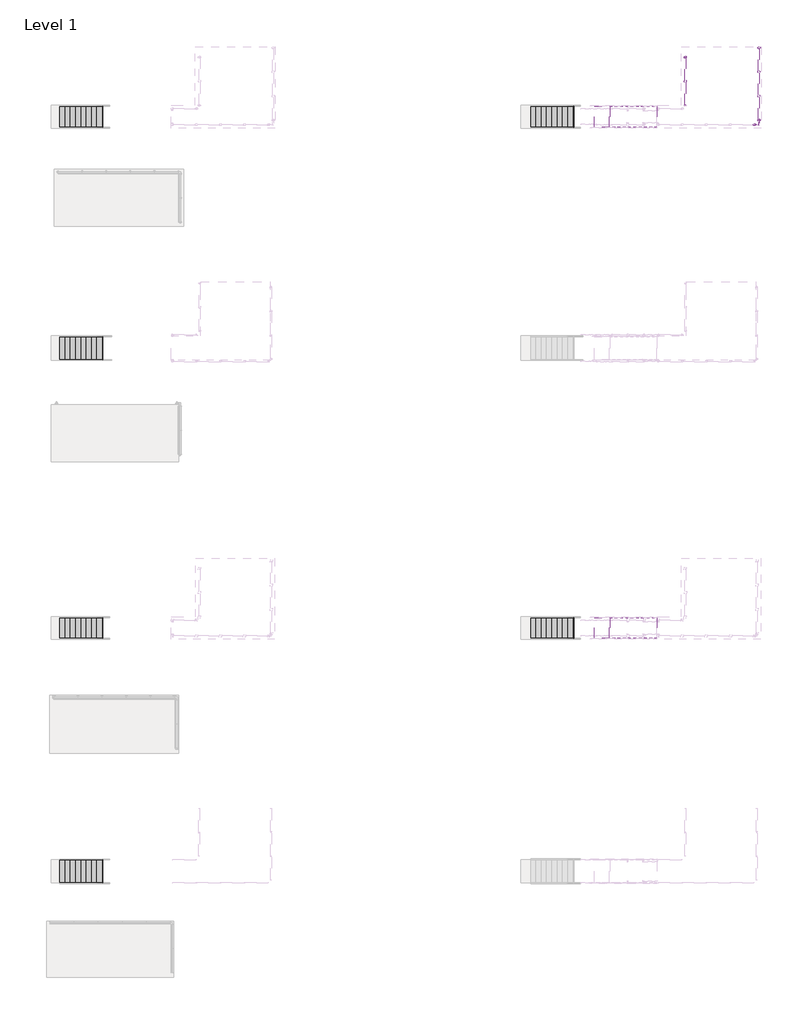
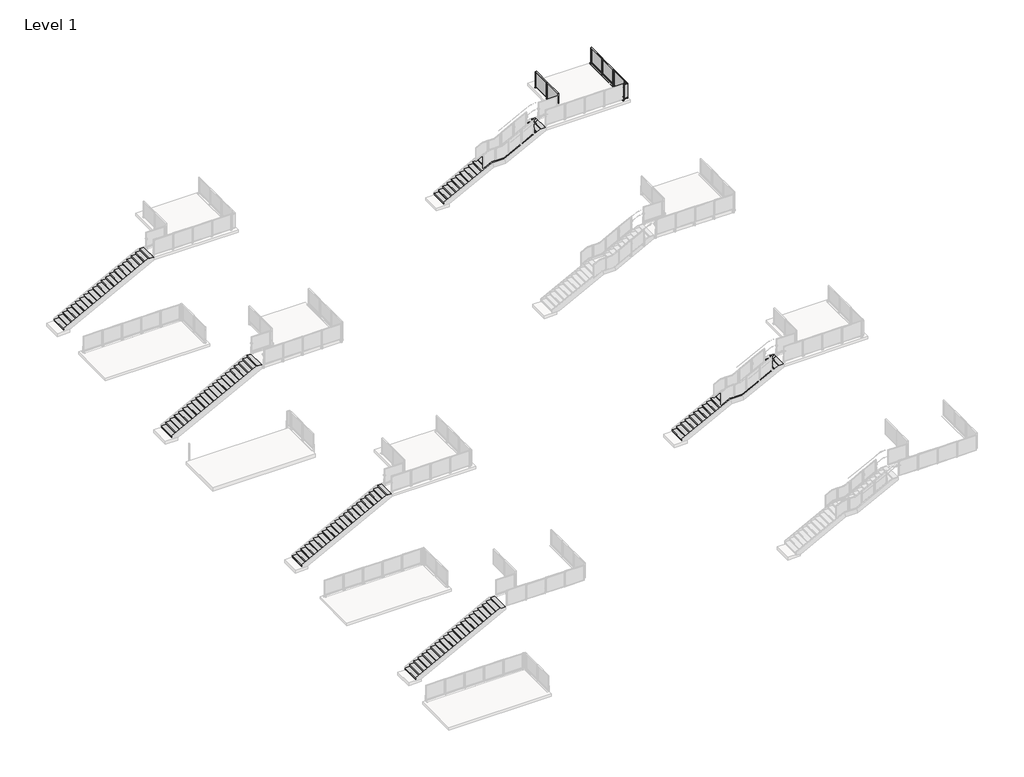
# One storey, part 36 of 37: 8 stair flights, 4 proxies, 3 railings, 2 slabs.
"""IFC4 building model written with IfcOpenShell, lengths in millimetres."""

from ifc_helpers import new_model, si_unit, point, frame, frame_2d, origin, place, context, project, spatial, polyline, circle_curve, trimmed, segment, composite_curve, outline, extrude, faceted_brep, transform, mapped, element, save
from ifc_brep_helpers import plane_surface, cylinder_surface, advanced_brep
from components import baluster_end_post_viva_frame_top_mount_933f940f, baluster_end_post_viva_frame_top_mount_dbc33080, baluster_end_post_viva_frame_top_mount_933cdb12, baluster_corner_panel_viva_frame_inside_standard_882b99be, non_monolithic_landing_f369c329, non_monolithic_landing_64b571ac, stair_flight_34399b1a, stair_flight_03183e76, stair_flight_abbb2ed0, stair_flight_b4acfca7, stair_flight_f9da9db6, stair_flight_c7a47ad9, stair_flight_6cd5c80f, stair_flight_bc71ca27

model = new_model("IFC4")

# Units and contexts
model_context = context("Model", 3, world=origin())
ifc_project = project(units=[si_unit("LENGTHUNIT", "METRE", prefix="MILLI")], contexts=[model_context])

# Site, building, storey
site = spatial("IfcSite", under=ifc_project)
building = spatial("IfcBuilding", under=site)
storey = spatial("IfcBuildingStorey", under=building, Name="Level 1", Elevation=0.0)

# Proxies
placement = place(None, origin())
baluster_end_post_viva_frame_top_mount_shape = baluster_end_post_viva_frame_top_mount_933f940f(model_context)
element("IfcBuildingElementProxy", 1, Name="Baluster-End-Post-VIVA-FRAME-Top Mount : CORED INTO CONCRETE_TOP MOUNT FOLD_STRAIGHT", ObjectType="Baluster-End-Post-VIVA-FRAME-Top Mount : CORED INTO CONCRETE_TOP MOUNT FOLD_STRAIGHT", at=placement, inside=storey, context=model_context, shape_type="MappedRepresentation", body=[
    mapped(baluster_end_post_viva_frame_top_mount_shape, transform((-2192.9377244, 8746.3986722, 3047.492), x_axis=(0.0, 1.0, 0.0), y_axis=(-1.0, 0.0, 0.0), z_axis=(0.0, 0.0, 1.0))),
])
baluster_end_post_viva_frame_top_mount_2_shape = baluster_end_post_viva_frame_top_mount_dbc33080(model_context)
element("IfcBuildingElementProxy", 2, Name="Baluster-End-Post-VIVA-FRAME-Top Mount : CORED INTO CONCRETE_TOP MOUNT FOLD_STRAIGHT", ObjectType="Baluster-End-Post-VIVA-FRAME-Top Mount : CORED INTO CONCRETE_TOP MOUNT FOLD_STRAIGHT", at=placement, inside=storey, context=model_context, shape_type="MappedRepresentation", body=[
    mapped(baluster_end_post_viva_frame_top_mount_2_shape, transform((-2333.6813244, 8605.5937722, 3047.492), x_axis=(1.0, 0.0, 0.0), y_axis=(0.0, 1.0, 0.0), z_axis=(0.0, 0.0, 1.0))),
])
baluster_end_post_viva_frame_top_mount_3_shape = baluster_end_post_viva_frame_top_mount_933cdb12(model_context)
element("IfcBuildingElementProxy", 3, Name="Baluster-End-Post-VIVA-FRAME-Top Mount : CORED INTO CONCRETE_TOP MOUNT FOLD_STRAIGHT", ObjectType="Baluster-End-Post-VIVA-FRAME-Top Mount : CORED INTO CONCRETE_TOP MOUNT FOLD_STRAIGHT", at=placement, inside=storey, context=model_context, shape_type="MappedRepresentation", body=[
    mapped(baluster_end_post_viva_frame_top_mount_3_shape, transform((-5882.5754694, 12061.3663722, 3047.492), x_axis=(0.0, -1.0, 0.0), y_axis=(1.0, 0.0, 0.0), z_axis=(0.0, 0.0, 1.0))),
])
element("IfcBuildingElementProxy", 4, Name="Baluster-End-Post-VIVA-FRAME-Top Mount : CORED INTO CONCRETE_TOP MOUNT FOLD_STRAIGHT", ObjectType="Baluster-End-Post-VIVA-FRAME-Top Mount : CORED INTO CONCRETE_TOP MOUNT FOLD_STRAIGHT", at=placement, inside=storey, context=model_context, shape_type="MappedRepresentation", body=[
    mapped(baluster_end_post_viva_frame_top_mount_2_shape, transform((-2192.9377244, 12556.3986722, 3047.492), x_axis=(0.0, 1.0, 0.0), y_axis=(-1.0, 0.0, 0.0), z_axis=(0.0, 0.0, 1.0))),
])

# Railings
baluster_corner_panel_viva_frame_inside_standard_shape = baluster_corner_panel_viva_frame_inside_standard_882b99be(model_context)
element("IfcRailing", 5, ObjectType="Baluster-Corner-Panel-VIVA-FRAME : Inside_Standard", at=placement, inside=storey, context=model_context, shape_type="MappedRepresentation", body=[
    mapped(baluster_corner_panel_viva_frame_inside_standard_shape, transform((-2067.0299244, 8479.6859722, 3022.346), x_axis=(0.0, 1.0, 0.0), y_axis=(-1.0, 0.0, 0.0), z_axis=(0.0, 0.0, 1.0))),
])
element("IfcRailing", 6, ObjectType="Metal-Panel-VIVA-FRAME-Top_Core-Straight", at=placement, inside=storey, context=model_context, shape_type="SolidModel", body=[
    extrude(outline(composite_curve([segment(trimmed(circle_curve(frame_2d((3047.746, -5882.5754694)), 0.254), [point((3047.746, -5882.3214694))], [point((3047.746, -5882.8294694))], False, "CARTESIAN"), True, "CONTINUOUS"), segment(trimmed(circle_curve(frame_2d((3047.746, -5882.5754694)), 0.254), [point((3047.746, -5882.8294694))], [point((3047.746, -5882.3214694))], False, "CARTESIAN"), True, "CONTINUOUS")], self_intersect=False)), frame((0.0, 9521.3663722, 0.0), z_axis=(0.0, 1.0, 0.0), x_axis=(0.0, 0.0, 1.0)), (0.0, 0.0, 1.0), 2540.0),
    extrude(outline(composite_curve([segment(trimmed(circle_curve(frame_2d((3047.746, -5882.5754694)), 0.254), [point((3047.746, -5882.3214694))], [point((3047.746, -5882.8294694))], False, "CARTESIAN"), True, "CONTINUOUS"), segment(trimmed(circle_curve(frame_2d((3047.746, -5882.5754694)), 0.254), [point((3047.746, -5882.8294694))], [point((3047.746, -5882.3214694))], False, "CARTESIAN"), True, "CONTINUOUS")], self_intersect=False)), frame((0.0, 9521.3663722, 0.0), z_axis=(0.0, 1.0, 0.0), x_axis=(0.0, 0.0, 1.0)), (0.0, 0.0, 1.0), 2540.0),
    extrude(outline(polyline([(-6005.3858694, 10832.1928291), (-6005.3858694, 12020.5399153), (-6002.3858694, 12020.5399153), (-6002.3858694, 10832.1928291), (-6005.3858694, 10832.1928291)])), frame((0.0, 0.0, 3124.1959569), z_axis=(0.0, 0.0, 1.0), x_axis=(1.0, 0.0, 0.0)), (0.0, 0.0, 1.0), 990.5826861),
    faceted_brep([(-6005.3858694, 10806.7928291, 4140.1786431), (-6005.3858694, 12045.9399153, 4140.1786431), (-6005.3858694, 12045.9399153, 3098.7959569), (-6005.3858694, 10806.7928291, 3098.7959569), (-6005.3858694, 10832.1928291, 4114.7786431), (-6005.3858694, 10832.1928291, 3124.1959569), (-6005.3858694, 12020.5399153, 3124.1959569), (-6005.3858694, 12020.5399153, 4114.7786431), (-6002.3858694, 10832.1928291, 3124.1959569), (-6002.3858694, 12020.5399153, 3124.1959569), (-6002.3858694, 12020.5399153, 4114.7786431), (-6002.3858694, 10832.1928291, 4114.7786431), (-5951.5858694, 10812.7872291, 3104.7903569), (-5951.5858694, 12039.9455153, 3104.7903569), (-5982.3960694, 12039.9455153, 3104.7903569), (-5982.3960694, 10812.7872291, 3104.7903569), (-5951.5858694, 12039.9455153, 4134.1842431), (-5982.3960694, 12039.9455153, 4134.1842431), (-5982.3960694, 10812.7872291, 4134.1842431), (-5951.5858694, 10812.7872291, 4134.1842431), (-5951.5858694, 12045.9399153, 3098.7959569), (-5951.5858694, 12045.9399153, 4140.1786431), (-5951.5858694, 10806.7928291, 4140.1786431), (-5951.5858694, 10806.7928291, 3098.7959569), (-6002.3858694, 10857.5928291, 4089.3786431), (-6002.3858694, 10857.5928291, 3149.5959569), (-6002.3858694, 11995.1399153, 3149.5959569), (-6002.3858694, 11995.1399153, 4089.3786431), (-5982.3960694, 11995.1399153, 3149.5959569), (-5982.3960694, 10857.5928291, 3149.5959569), (-5982.3960694, 10857.5928291, 4089.3786431), (-5982.3960694, 11995.1399153, 4089.3786431)], [[[0, 1, 2, 3], [4, 5, 6, 7]], [[5, 8, 9, 6]], [[6, 9, 10, 7]], [[7, 10, 11, 4]], [[4, 11, 8, 5]], [[12, 13, 14, 15]], [[13, 16, 17, 14]], [[15, 18, 19, 12]], [[20, 21, 22, 23], [12, 19, 16, 13]], [[23, 22, 0, 3]], [[23, 3, 2, 20]], [[2, 1, 21, 20]], [[22, 21, 1, 0]], [[11, 10, 9, 8], [24, 25, 26, 27]], [[14, 17, 18, 15], [28, 29, 30, 31]], [[18, 17, 16, 19]], [[27, 31, 30, 24]], [[26, 28, 31, 27]], [[25, 29, 28, 26]], [[24, 30, 29, 25]]]),
    extrude(outline(composite_curve([segment(trimmed(circle_curve(frame_2d((-5978.4858694, 10791.3663722)), 65.8876), [point((-6044.3734694, 10791.3663722))], [point((-5912.5982694, 10791.3663722))], False, "CARTESIAN"), True, "CONTINUOUS"), segment(trimmed(circle_curve(frame_2d((-5978.4858694, 10791.3663722)), 65.8876), [point((-5912.5982694, 10791.3663722))], [point((-6044.3734694, 10791.3663722))], False, "CARTESIAN"), True, "CONTINUOUS")], self_intersect=False)), frame((0.0, 0.0, 3048.0), z_axis=(0.0, 0.0, 1.0), x_axis=(1.0, 0.0, 0.0)), (0.0, 0.0, 1.0), 2.9821299),
    advanced_brep(
    [(-5978.4858694, 10765.1789722, 3178.1496), (-5978.4858694, 10765.1789722, 3187.7), (-5978.4858694, 10765.1789722, 3197.2504), (-5978.4858694, 10769.9541722, 3178.1496), (-5978.4858694, 10769.9541722, 3197.2504), (-5978.4858694, 10769.9541722, 3182.9248), (-5978.4858694, 10769.9541722, 3192.4752), (-5978.4858694, 10812.7785722, 3182.9248), (-5978.4858694, 10812.7785722, 3192.4752), (-5978.4858694, 10812.7785722, 3178.1496), (-5978.4858694, 10812.7785722, 3197.2504), (-5978.4858694, 10817.5537722, 3178.1496), (-5978.4858694, 10817.5537722, 3197.2504), (-5978.4858694, 10817.5537722, 3187.7)],
    [
        (0, 1),
        (1, 2),
        (2, 0, circle_curve(frame((-5978.4858694, 10765.1789722, 3187.7), z_axis=(0.0, -1.0, 0.0), x_axis=(0.0, 0.0, 1.0)), 9.5504)),
        (0, 2, circle_curve(frame((-5978.4858694, 10765.1789722, 3187.7), z_axis=(0.0, -1.0, 0.0), x_axis=(0.0, 0.0, 1.0)), 9.5504)),
        (3, 0),
        (2, 4),
        (4, 3, circle_curve(frame((-5978.4858694, 10769.9541722, 3187.7), z_axis=(0.0, -1.0, 0.0), x_axis=(0.0, 0.0, 1.0)), 9.5504)),
        (3, 4, circle_curve(frame((-5978.4858694, 10769.9541722, 3187.7), z_axis=(0.0, -1.0, 0.0), x_axis=(0.0, 0.0, 1.0)), 9.5504)),
        (5, 3),
        (4, 6),
        (6, 5, circle_curve(frame((-5978.4858694, 10769.9541722, 3187.7), z_axis=(0.0, -1.0, 0.0), x_axis=(0.0, 0.0, 1.0)), 4.7752)),
        (5, 6, circle_curve(frame((-5978.4858694, 10769.9541722, 3187.7), z_axis=(0.0, -1.0, 0.0), x_axis=(0.0, 0.0, 1.0)), 4.7752)),
        (7, 5),
        (6, 8),
        (8, 7, circle_curve(frame((-5978.4858694, 10812.7785722, 3187.7), z_axis=(0.0, -1.0, 0.0), x_axis=(0.0, 0.0, 1.0)), 4.7752)),
        (7, 8, circle_curve(frame((-5978.4858694, 10812.7785722, 3187.7), z_axis=(0.0, -1.0, 0.0), x_axis=(0.0, 0.0, 1.0)), 4.7752)),
        (9, 7),
        (8, 10),
        (10, 9, circle_curve(frame((-5978.4858694, 10812.7785722, 3187.7), z_axis=(0.0, -1.0, 0.0), x_axis=(0.0, 0.0, 1.0)), 9.5504)),
        (9, 10, circle_curve(frame((-5978.4858694, 10812.7785722, 3187.7), z_axis=(0.0, -1.0, 0.0), x_axis=(0.0, 0.0, 1.0)), 9.5504)),
        (11, 9),
        (10, 12),
        (12, 11, circle_curve(frame((-5978.4858694, 10817.5537722, 3187.7), z_axis=(0.0, -1.0, 0.0), x_axis=(0.0, 0.0, 1.0)), 9.5504)),
        (11, 12, circle_curve(frame((-5978.4858694, 10817.5537722, 3187.7), z_axis=(0.0, -1.0, 0.0), x_axis=(0.0, 0.0, 1.0)), 9.5504)),
        (13, 11),
        (12, 13),
    ],
    [
        plane_surface(frame((-5978.4858694, 10765.1789722, 3187.7), z_axis=(0.0, -1.0, 0.0), x_axis=(0.0, 0.0, 1.0))),
        cylinder_surface(frame((-5978.4858694, 7373.5986151, 3187.7), z_axis=(0.0, 1.0, 0.0), x_axis=(0.0, 0.0, 1.0)), 9.5504),
        plane_surface(frame((-5978.4858694, 10769.9541722, 3187.7), z_axis=(0.0, 1.0, 0.0), x_axis=(0.0, 0.0, 1.0))),
        cylinder_surface(frame((-5978.4858694, 7373.5986151, 3187.7), z_axis=(0.0, 1.0, 0.0), x_axis=(0.0, 0.0, 1.0)), 4.7752),
        plane_surface(frame((-5978.4858694, 10812.7785722, 3187.7), z_axis=(0.0, -1.0, 0.0), x_axis=(0.0, 0.0, 1.0))),
        plane_surface(frame((-5978.4858694, 10817.5537722, 3187.7), z_axis=(0.0, 1.0, 0.0), x_axis=(0.0, 0.0, 1.0))),
    ],
    [
        (0, [[1, 2, 3]]),
        (0, [[-2, -1, 4]]),
        (1, [[5, -3, 6, 7]]),
        (1, [[-6, -4, -5, 8]]),
        (2, [[9, -7, 10, 11]]),
        (2, [[-10, -8, -9, 12]]),
        (3, [[13, -11, 14, 15]]),
        (3, [[-14, -12, -13, 16]]),
        (4, [[17, -15, 18, 19]]),
        (4, [[-18, -16, -17, 20]]),
        (1, [[21, -19, 22, 23]]),
        (1, [[-22, -20, -21, 24]]),
        (5, [[25, -23, 26]]),
        (5, [[-26, -24, -25]]),
    ],
),
    advanced_brep(
    [(-5978.4858694, 10765.1789722, 3419.4496), (-5978.4858694, 10765.1789722, 3429.0), (-5978.4858694, 10765.1789722, 3438.5504), (-5978.4858694, 10769.9541722, 3419.4496), (-5978.4858694, 10769.9541722, 3438.5504), (-5978.4858694, 10769.9541722, 3424.2248), (-5978.4858694, 10769.9541722, 3433.7752), (-5978.4858694, 10812.7785722, 3424.2248), (-5978.4858694, 10812.7785722, 3433.7752), (-5978.4858694, 10812.7785722, 3419.4496), (-5978.4858694, 10812.7785722, 3438.5504), (-5978.4858694, 10817.5537722, 3419.4496), (-5978.4858694, 10817.5537722, 3438.5504), (-5978.4858694, 10817.5537722, 3429.0)],
    [
        (0, 1),
        (1, 2),
        (2, 0, circle_curve(frame((-5978.4858694, 10765.1789722, 3429.0), z_axis=(0.0, -1.0, 0.0), x_axis=(0.0, 0.0, 1.0)), 9.5504)),
        (0, 2, circle_curve(frame((-5978.4858694, 10765.1789722, 3429.0), z_axis=(0.0, -1.0, 0.0), x_axis=(0.0, 0.0, 1.0)), 9.5504)),
        (3, 0),
        (2, 4),
        (4, 3, circle_curve(frame((-5978.4858694, 10769.9541722, 3429.0), z_axis=(0.0, -1.0, 0.0), x_axis=(0.0, 0.0, 1.0)), 9.5504)),
        (3, 4, circle_curve(frame((-5978.4858694, 10769.9541722, 3429.0), z_axis=(0.0, -1.0, 0.0), x_axis=(0.0, 0.0, 1.0)), 9.5504)),
        (5, 3),
        (4, 6),
        (6, 5, circle_curve(frame((-5978.4858694, 10769.9541722, 3429.0), z_axis=(0.0, -1.0, 0.0), x_axis=(0.0, 0.0, 1.0)), 4.7752)),
        (5, 6, circle_curve(frame((-5978.4858694, 10769.9541722, 3429.0), z_axis=(0.0, -1.0, 0.0), x_axis=(0.0, 0.0, 1.0)), 4.7752)),
        (7, 5),
        (6, 8),
        (8, 7, circle_curve(frame((-5978.4858694, 10812.7785722, 3429.0), z_axis=(0.0, -1.0, 0.0), x_axis=(0.0, 0.0, 1.0)), 4.7752)),
        (7, 8, circle_curve(frame((-5978.4858694, 10812.7785722, 3429.0), z_axis=(0.0, -1.0, 0.0), x_axis=(0.0, 0.0, 1.0)), 4.7752)),
        (9, 7),
        (8, 10),
        (10, 9, circle_curve(frame((-5978.4858694, 10812.7785722, 3429.0), z_axis=(0.0, -1.0, 0.0), x_axis=(0.0, 0.0, 1.0)), 9.5504)),
        (9, 10, circle_curve(frame((-5978.4858694, 10812.7785722, 3429.0), z_axis=(0.0, -1.0, 0.0), x_axis=(0.0, 0.0, 1.0)), 9.5504)),
        (11, 9),
        (10, 12),
        (12, 11, circle_curve(frame((-5978.4858694, 10817.5537722, 3429.0), z_axis=(0.0, -1.0, 0.0), x_axis=(0.0, 0.0, 1.0)), 9.5504)),
        (11, 12, circle_curve(frame((-5978.4858694, 10817.5537722, 3429.0), z_axis=(0.0, -1.0, 0.0), x_axis=(0.0, 0.0, 1.0)), 9.5504)),
        (13, 11),
        (12, 13),
    ],
    [
        plane_surface(frame((-5978.4858694, 10765.1789722, 3429.0), z_axis=(0.0, -1.0, 0.0), x_axis=(0.0, 0.0, 1.0))),
        cylinder_surface(frame((-5978.4858694, 7373.5986151, 3429.0), z_axis=(0.0, 1.0, 0.0), x_axis=(0.0, 0.0, 1.0)), 9.5504),
        plane_surface(frame((-5978.4858694, 10769.9541722, 3429.0), z_axis=(0.0, 1.0, 0.0), x_axis=(0.0, 0.0, 1.0))),
        cylinder_surface(frame((-5978.4858694, 7373.5986151, 3429.0), z_axis=(0.0, 1.0, 0.0), x_axis=(0.0, 0.0, 1.0)), 4.7752),
        plane_surface(frame((-5978.4858694, 10812.7785722, 3429.0), z_axis=(0.0, -1.0, 0.0), x_axis=(0.0, 0.0, 1.0))),
        plane_surface(frame((-5978.4858694, 10817.5537722, 3429.0), z_axis=(0.0, 1.0, 0.0), x_axis=(0.0, 0.0, 1.0))),
    ],
    [
        (0, [[1, 2, 3]]),
        (0, [[-2, -1, 4]]),
        (1, [[5, -3, 6, 7]]),
        (1, [[-6, -4, -5, 8]]),
        (2, [[9, -7, 10, 11]]),
        (2, [[-10, -8, -9, 12]]),
        (3, [[13, -11, 14, 15]]),
        (3, [[-14, -12, -13, 16]]),
        (4, [[17, -15, 18, 19]]),
        (4, [[-18, -16, -17, 20]]),
        (1, [[21, -19, 22, 23]]),
        (1, [[-22, -20, -21, 24]]),
        (5, [[25, -23, 26]]),
        (5, [[-26, -24, -25]]),
    ],
),
    extrude(outline(polyline([(-5956.2608694, 10783.4267806), (-6000.7108694, 10783.4267806), (-6000.7108694, 10799.3059639), (-5956.2608694, 10799.3059639), (-5956.2608694, 10783.4267806)])), frame((0.0, 0.0, 2946.4), z_axis=(0.0, 0.0, 1.0), x_axis=(1.0, 0.0, 0.0)), (0.0, 0.0, 1.0), 508.0),
    extrude(outline(polyline([(-6005.3858694, 9562.1928291), (-6005.3858694, 10750.5399153), (-6002.3858694, 10750.5399153), (-6002.3858694, 9562.1928291), (-6005.3858694, 9562.1928291)])), frame((0.0, 0.0, 3124.1959569), z_axis=(0.0, 0.0, 1.0), x_axis=(1.0, 0.0, 0.0)), (0.0, 0.0, 1.0), 990.5826861),
    faceted_brep([(-6005.3858694, 9536.7928291, 4140.1786431), (-6005.3858694, 10775.9399153, 4140.1786431), (-6005.3858694, 10775.9399153, 3098.7959569), (-6005.3858694, 9536.7928291, 3098.7959569), (-6005.3858694, 9562.1928291, 4114.7786431), (-6005.3858694, 9562.1928291, 3124.1959569), (-6005.3858694, 10750.5399153, 3124.1959569), (-6005.3858694, 10750.5399153, 4114.7786431), (-6002.3858694, 9562.1928291, 3124.1959569), (-6002.3858694, 10750.5399153, 3124.1959569), (-6002.3858694, 10750.5399153, 4114.7786431), (-6002.3858694, 9562.1928291, 4114.7786431), (-5951.5858694, 9542.7872291, 3104.7903569), (-5951.5858694, 10769.9455153, 3104.7903569), (-5982.3960694, 10769.9455153, 3104.7903569), (-5982.3960694, 9542.7872291, 3104.7903569), (-5951.5858694, 10769.9455153, 4134.1842431), (-5982.3960694, 10769.9455153, 4134.1842431), (-5982.3960694, 9542.7872291, 4134.1842431), (-5951.5858694, 9542.7872291, 4134.1842431), (-5951.5858694, 10775.9399153, 3098.7959569), (-5951.5858694, 10775.9399153, 4140.1786431), (-5951.5858694, 9536.7928291, 4140.1786431), (-5951.5858694, 9536.7928291, 3098.7959569), (-6002.3858694, 9587.5928291, 4089.3786431), (-6002.3858694, 9587.5928291, 3149.5959569), (-6002.3858694, 10725.1399153, 3149.5959569), (-6002.3858694, 10725.1399153, 4089.3786431), (-5982.3960694, 10725.1399153, 3149.5959569), (-5982.3960694, 9587.5928291, 3149.5959569), (-5982.3960694, 9587.5928291, 4089.3786431), (-5982.3960694, 10725.1399153, 4089.3786431)], [[[0, 1, 2, 3], [4, 5, 6, 7]], [[5, 8, 9, 6]], [[6, 9, 10, 7]], [[7, 10, 11, 4]], [[4, 11, 8, 5]], [[12, 13, 14, 15]], [[13, 16, 17, 14]], [[15, 18, 19, 12]], [[20, 21, 22, 23], [12, 19, 16, 13]], [[23, 22, 0, 3]], [[23, 3, 2, 20]], [[2, 1, 21, 20]], [[22, 21, 1, 0]], [[11, 10, 9, 8], [24, 25, 26, 27]], [[14, 17, 18, 15], [28, 29, 30, 31]], [[18, 17, 16, 19]], [[27, 31, 30, 24]], [[26, 28, 31, 27]], [[25, 29, 28, 26]], [[24, 30, 29, 25]]]),
])
element("IfcRailing", 7, ObjectType="Metal-Panel-VIVA-FRAME-Top_Core-Straight", at=placement, inside=storey, context=model_context, shape_type="SolidModel", body=[
    extrude(outline(composite_curve([segment(trimmed(circle_curve(frame_2d((3047.746, -2192.9377244)), 0.254), [point((3047.746, -2192.6837244))], [point((3047.746, -2193.1917244))], False, "CARTESIAN"), True, "CONTINUOUS"), segment(trimmed(circle_curve(frame_2d((3047.746, -2192.9377244)), 0.254), [point((3047.746, -2193.1917244))], [point((3047.746, -2192.6837244))], False, "CARTESIAN"), True, "CONTINUOUS")], self_intersect=False)), frame((0.0, 8746.3986722, 0.0), z_axis=(0.0, 1.0, 0.0), x_axis=(0.0, 0.0, 1.0)), (0.0, 0.0, 1.0), 3810.0),
    extrude(outline(composite_curve([segment(trimmed(circle_curve(frame_2d((3047.746, -2192.9377244)), 0.254), [point((3047.746, -2192.6837244))], [point((3047.746, -2193.1917244))], False, "CARTESIAN"), True, "CONTINUOUS"), segment(trimmed(circle_curve(frame_2d((3047.746, -2192.9377244)), 0.254), [point((3047.746, -2193.1917244))], [point((3047.746, -2192.6837244))], False, "CARTESIAN"), True, "CONTINUOUS")], self_intersect=False)), frame((0.0, 8746.3986722, 0.0), z_axis=(0.0, 1.0, 0.0), x_axis=(0.0, 0.0, 1.0)), (0.0, 0.0, 1.0), 3810.0),
    extrude(outline(polyline([(-2070.1273244, 11327.2251291), (-2073.1273244, 11327.2251291), (-2073.1273244, 12515.5722153), (-2070.1273244, 12515.5722153), (-2070.1273244, 11327.2251291)])), frame((0.0, 0.0, 3124.1959569), z_axis=(0.0, 0.0, 1.0), x_axis=(1.0, 0.0, 0.0)), (0.0, 0.0, 1.0), 990.5826861),
    faceted_brep([(-2070.1273244, 11301.8251291, 4140.1786431), (-2070.1273244, 11301.8251291, 3098.7959569), (-2070.1273244, 12540.9722153, 3098.7959569), (-2070.1273244, 12540.9722153, 4140.1786431), (-2070.1273244, 11327.2251291, 4114.7786431), (-2070.1273244, 12515.5722153, 4114.7786431), (-2070.1273244, 12515.5722153, 3124.1959569), (-2070.1273244, 11327.2251291, 3124.1959569), (-2073.1273244, 12515.5722153, 3124.1959569), (-2073.1273244, 11327.2251291, 3124.1959569), (-2073.1273244, 12515.5722153, 4114.7786431), (-2073.1273244, 11327.2251291, 4114.7786431), (-2123.9273244, 11307.8195291, 3104.7903569), (-2093.1171244, 11307.8195291, 3104.7903569), (-2093.1171244, 12534.9778153, 3104.7903569), (-2123.9273244, 12534.9778153, 3104.7903569), (-2093.1171244, 12534.9778153, 4134.1842431), (-2123.9273244, 12534.9778153, 4134.1842431), (-2123.9273244, 11307.8195291, 4134.1842431), (-2093.1171244, 11307.8195291, 4134.1842431), (-2123.9273244, 12540.9722153, 3098.7959569), (-2123.9273244, 11301.8251291, 3098.7959569), (-2123.9273244, 11301.8251291, 4140.1786431), (-2123.9273244, 12540.9722153, 4140.1786431), (-2073.1273244, 11352.6251291, 4089.3786431), (-2073.1273244, 12490.1722153, 4089.3786431), (-2073.1273244, 12490.1722153, 3149.5959569), (-2073.1273244, 11352.6251291, 3149.5959569), (-2093.1171244, 12490.1722153, 3149.5959569), (-2093.1171244, 12490.1722153, 4089.3786431), (-2093.1171244, 11352.6251291, 4089.3786431), (-2093.1171244, 11352.6251291, 3149.5959569)], [[[0, 1, 2, 3], [4, 5, 6, 7]], [[7, 6, 8, 9]], [[6, 5, 10, 8]], [[5, 4, 11, 10]], [[4, 7, 9, 11]], [[12, 13, 14, 15]], [[15, 14, 16, 17]], [[13, 12, 18, 19]], [[20, 21, 22, 23], [12, 15, 17, 18]], [[21, 1, 0, 22]], [[21, 20, 2, 1]], [[2, 20, 23, 3]], [[22, 0, 3, 23]], [[11, 9, 8, 10], [24, 25, 26, 27]], [[14, 13, 19, 16], [28, 29, 30, 31]], [[19, 18, 17, 16]], [[25, 24, 30, 29]], [[26, 25, 29, 28]], [[27, 26, 28, 31]], [[24, 27, 31, 30]]]),
    extrude(outline(composite_curve([segment(trimmed(circle_curve(frame_2d((-2097.0273244, 11286.3986722)), 65.8876), [point((-2031.1397244, 11286.3986722))], [point((-2162.9149244, 11286.3986722))], False, "CARTESIAN"), True, "CONTINUOUS"), segment(trimmed(circle_curve(frame_2d((-2097.0273244, 11286.3986722)), 65.8876), [point((-2162.9149244, 11286.3986722))], [point((-2031.1397244, 11286.3986722))], False, "CARTESIAN"), True, "CONTINUOUS")], self_intersect=False)), frame((0.0, 0.0, 3048.0), z_axis=(0.0, 0.0, 1.0), x_axis=(1.0, 0.0, 0.0)), (0.0, 0.0, 1.0), 2.9821299),
    advanced_brep(
    [(-2097.0273244, 11260.2112722, 3178.1496), (-2097.0273244, 11260.2112722, 3197.2504), (-2097.0273244, 11260.2112722, 3187.7), (-2097.0273244, 11264.9864722, 3178.1496), (-2097.0273244, 11264.9864722, 3197.2504), (-2097.0273244, 11264.9864722, 3182.9248), (-2097.0273244, 11264.9864722, 3192.4752), (-2097.0273244, 11307.8108722, 3182.9248), (-2097.0273244, 11307.8108722, 3192.4752), (-2097.0273244, 11307.8108722, 3178.1496), (-2097.0273244, 11307.8108722, 3197.2504), (-2097.0273244, 11312.5860722, 3178.1496), (-2097.0273244, 11312.5860722, 3197.2504), (-2097.0273244, 11312.5860722, 3187.7)],
    [
        (0, 1, circle_curve(frame((-2097.0273244, 11260.2112722, 3187.7), z_axis=(0.0, -1.0, 0.0), x_axis=(0.0, 0.0, 1.0)), 9.5504)),
        (1, 2),
        (2, 0),
        (1, 0, circle_curve(frame((-2097.0273244, 11260.2112722, 3187.7), z_axis=(0.0, -1.0, 0.0), x_axis=(0.0, 0.0, 1.0)), 9.5504)),
        (3, 4, circle_curve(frame((-2097.0273244, 11264.9864722, 3187.7), z_axis=(0.0, -1.0, 0.0), x_axis=(0.0, 0.0, 1.0)), 9.5504)),
        (4, 1),
        (0, 3),
        (4, 3, circle_curve(frame((-2097.0273244, 11264.9864722, 3187.7), z_axis=(0.0, -1.0, 0.0), x_axis=(0.0, 0.0, 1.0)), 9.5504)),
        (5, 6, circle_curve(frame((-2097.0273244, 11264.9864722, 3187.7), z_axis=(0.0, -1.0, 0.0), x_axis=(0.0, 0.0, 1.0)), 4.7752)),
        (6, 4),
        (3, 5),
        (6, 5, circle_curve(frame((-2097.0273244, 11264.9864722, 3187.7), z_axis=(0.0, -1.0, 0.0), x_axis=(0.0, 0.0, 1.0)), 4.7752)),
        (7, 8, circle_curve(frame((-2097.0273244, 11307.8108722, 3187.7), z_axis=(0.0, -1.0, 0.0), x_axis=(0.0, 0.0, 1.0)), 4.7752)),
        (8, 6),
        (5, 7),
        (8, 7, circle_curve(frame((-2097.0273244, 11307.8108722, 3187.7), z_axis=(0.0, -1.0, 0.0), x_axis=(0.0, 0.0, 1.0)), 4.7752)),
        (9, 10, circle_curve(frame((-2097.0273244, 11307.8108722, 3187.7), z_axis=(0.0, -1.0, 0.0), x_axis=(0.0, 0.0, 1.0)), 9.5504)),
        (10, 8),
        (7, 9),
        (10, 9, circle_curve(frame((-2097.0273244, 11307.8108722, 3187.7), z_axis=(0.0, -1.0, 0.0), x_axis=(0.0, 0.0, 1.0)), 9.5504)),
        (11, 12, circle_curve(frame((-2097.0273244, 11312.5860722, 3187.7), z_axis=(0.0, -1.0, 0.0), x_axis=(0.0, 0.0, 1.0)), 9.5504)),
        (12, 10),
        (9, 11),
        (12, 11, circle_curve(frame((-2097.0273244, 11312.5860722, 3187.7), z_axis=(0.0, -1.0, 0.0), x_axis=(0.0, 0.0, 1.0)), 9.5504)),
        (13, 12),
        (11, 13),
    ],
    [
        plane_surface(frame((-2097.0273244, 11260.2112722, 3187.7), z_axis=(0.0, -1.0, 0.0), x_axis=(0.0, 0.0, 1.0))),
        cylinder_surface(frame((-2097.0273244, 7868.6309151, 3187.7), z_axis=(0.0, 1.0, 0.0), x_axis=(0.0, 0.0, 1.0)), 9.5504),
        plane_surface(frame((-2097.0273244, 11264.9864722, 3187.7), z_axis=(0.0, 1.0, 0.0), x_axis=(0.0, 0.0, 1.0))),
        cylinder_surface(frame((-2097.0273244, 7868.6309151, 3187.7), z_axis=(0.0, 1.0, 0.0), x_axis=(0.0, 0.0, 1.0)), 4.7752),
        plane_surface(frame((-2097.0273244, 11307.8108722, 3187.7), z_axis=(0.0, -1.0, 0.0), x_axis=(0.0, 0.0, 1.0))),
        plane_surface(frame((-2097.0273244, 11312.5860722, 3187.7), z_axis=(0.0, 1.0, 0.0), x_axis=(0.0, 0.0, 1.0))),
    ],
    [
        (0, [[1, 2, 3]]),
        (0, [[4, -3, -2]]),
        (1, [[5, 6, -1, 7]]),
        (1, [[8, -7, -4, -6]]),
        (2, [[9, 10, -5, 11]]),
        (2, [[12, -11, -8, -10]]),
        (3, [[13, 14, -9, 15]]),
        (3, [[16, -15, -12, -14]]),
        (4, [[17, 18, -13, 19]]),
        (4, [[20, -19, -16, -18]]),
        (1, [[21, 22, -17, 23]]),
        (1, [[24, -23, -20, -22]]),
        (5, [[25, -21, 26]]),
        (5, [[-26, -24, -25]]),
    ],
),
    advanced_brep(
    [(-2097.0273244, 11260.2112722, 3419.4496), (-2097.0273244, 11260.2112722, 3438.5504), (-2097.0273244, 11260.2112722, 3429.0), (-2097.0273244, 11264.9864722, 3419.4496), (-2097.0273244, 11264.9864722, 3438.5504), (-2097.0273244, 11264.9864722, 3424.2248), (-2097.0273244, 11264.9864722, 3433.7752), (-2097.0273244, 11307.8108722, 3424.2248), (-2097.0273244, 11307.8108722, 3433.7752), (-2097.0273244, 11307.8108722, 3419.4496), (-2097.0273244, 11307.8108722, 3438.5504), (-2097.0273244, 11312.5860722, 3419.4496), (-2097.0273244, 11312.5860722, 3438.5504), (-2097.0273244, 11312.5860722, 3429.0)],
    [
        (0, 1, circle_curve(frame((-2097.0273244, 11260.2112722, 3429.0), z_axis=(0.0, -1.0, 0.0), x_axis=(0.0, 0.0, 1.0)), 9.5504)),
        (1, 2),
        (2, 0),
        (1, 0, circle_curve(frame((-2097.0273244, 11260.2112722, 3429.0), z_axis=(0.0, -1.0, 0.0), x_axis=(0.0, 0.0, 1.0)), 9.5504)),
        (3, 4, circle_curve(frame((-2097.0273244, 11264.9864722, 3429.0), z_axis=(0.0, -1.0, 0.0), x_axis=(0.0, 0.0, 1.0)), 9.5504)),
        (4, 1),
        (0, 3),
        (4, 3, circle_curve(frame((-2097.0273244, 11264.9864722, 3429.0), z_axis=(0.0, -1.0, 0.0), x_axis=(0.0, 0.0, 1.0)), 9.5504)),
        (5, 6, circle_curve(frame((-2097.0273244, 11264.9864722, 3429.0), z_axis=(0.0, -1.0, 0.0), x_axis=(0.0, 0.0, 1.0)), 4.7752)),
        (6, 4),
        (3, 5),
        (6, 5, circle_curve(frame((-2097.0273244, 11264.9864722, 3429.0), z_axis=(0.0, -1.0, 0.0), x_axis=(0.0, 0.0, 1.0)), 4.7752)),
        (7, 8, circle_curve(frame((-2097.0273244, 11307.8108722, 3429.0), z_axis=(0.0, -1.0, 0.0), x_axis=(0.0, 0.0, 1.0)), 4.7752)),
        (8, 6),
        (5, 7),
        (8, 7, circle_curve(frame((-2097.0273244, 11307.8108722, 3429.0), z_axis=(0.0, -1.0, 0.0), x_axis=(0.0, 0.0, 1.0)), 4.7752)),
        (9, 10, circle_curve(frame((-2097.0273244, 11307.8108722, 3429.0), z_axis=(0.0, -1.0, 0.0), x_axis=(0.0, 0.0, 1.0)), 9.5504)),
        (10, 8),
        (7, 9),
        (10, 9, circle_curve(frame((-2097.0273244, 11307.8108722, 3429.0), z_axis=(0.0, -1.0, 0.0), x_axis=(0.0, 0.0, 1.0)), 9.5504)),
        (11, 12, circle_curve(frame((-2097.0273244, 11312.5860722, 3429.0), z_axis=(0.0, -1.0, 0.0), x_axis=(0.0, 0.0, 1.0)), 9.5504)),
        (12, 10),
        (9, 11),
        (12, 11, circle_curve(frame((-2097.0273244, 11312.5860722, 3429.0), z_axis=(0.0, -1.0, 0.0), x_axis=(0.0, 0.0, 1.0)), 9.5504)),
        (13, 12),
        (11, 13),
    ],
    [
        plane_surface(frame((-2097.0273244, 11260.2112722, 3429.0), z_axis=(0.0, -1.0, 0.0), x_axis=(0.0, 0.0, 1.0))),
        cylinder_surface(frame((-2097.0273244, 7868.6309151, 3429.0), z_axis=(0.0, 1.0, 0.0), x_axis=(0.0, 0.0, 1.0)), 9.5504),
        plane_surface(frame((-2097.0273244, 11264.9864722, 3429.0), z_axis=(0.0, 1.0, 0.0), x_axis=(0.0, 0.0, 1.0))),
        cylinder_surface(frame((-2097.0273244, 7868.6309151, 3429.0), z_axis=(0.0, 1.0, 0.0), x_axis=(0.0, 0.0, 1.0)), 4.7752),
        plane_surface(frame((-2097.0273244, 11307.8108722, 3429.0), z_axis=(0.0, -1.0, 0.0), x_axis=(0.0, 0.0, 1.0))),
        plane_surface(frame((-2097.0273244, 11312.5860722, 3429.0), z_axis=(0.0, 1.0, 0.0), x_axis=(0.0, 0.0, 1.0))),
    ],
    [
        (0, [[1, 2, 3]]),
        (0, [[4, -3, -2]]),
        (1, [[5, 6, -1, 7]]),
        (1, [[8, -7, -4, -6]]),
        (2, [[9, 10, -5, 11]]),
        (2, [[12, -11, -8, -10]]),
        (3, [[13, 14, -9, 15]]),
        (3, [[16, -15, -12, -14]]),
        (4, [[17, 18, -13, 19]]),
        (4, [[20, -19, -16, -18]]),
        (1, [[21, 22, -17, 23]]),
        (1, [[24, -23, -20, -22]]),
        (5, [[25, -21, 26]]),
        (5, [[-26, -24, -25]]),
    ],
),
    extrude(outline(polyline([(-2119.2523244, 11278.4590806), (-2119.2523244, 11294.3382639), (-2074.8023244, 11294.3382639), (-2074.8023244, 11278.4590806), (-2119.2523244, 11278.4590806)])), frame((0.0, 0.0, 2946.4), z_axis=(0.0, 0.0, 1.0), x_axis=(1.0, 0.0, 0.0)), (0.0, 0.0, 1.0), 508.0),
    extrude(outline(polyline([(-2070.1273244, 10057.2251291), (-2073.1273244, 10057.2251291), (-2073.1273244, 11245.5722153), (-2070.1273244, 11245.5722153), (-2070.1273244, 10057.2251291)])), frame((0.0, 0.0, 3124.1959569), z_axis=(0.0, 0.0, 1.0), x_axis=(1.0, 0.0, 0.0)), (0.0, 0.0, 1.0), 990.5826861),
    faceted_brep([(-2070.1273244, 10031.8251291, 4140.1786431), (-2070.1273244, 10031.8251291, 3098.7959569), (-2070.1273244, 11270.9722153, 3098.7959569), (-2070.1273244, 11270.9722153, 4140.1786431), (-2070.1273244, 10057.2251291, 4114.7786431), (-2070.1273244, 11245.5722153, 4114.7786431), (-2070.1273244, 11245.5722153, 3124.1959569), (-2070.1273244, 10057.2251291, 3124.1959569), (-2073.1273244, 11245.5722153, 3124.1959569), (-2073.1273244, 10057.2251291, 3124.1959569), (-2073.1273244, 11245.5722153, 4114.7786431), (-2073.1273244, 10057.2251291, 4114.7786431), (-2123.9273244, 10037.8195291, 3104.7903569), (-2093.1171244, 10037.8195291, 3104.7903569), (-2093.1171244, 11264.9778153, 3104.7903569), (-2123.9273244, 11264.9778153, 3104.7903569), (-2093.1171244, 11264.9778153, 4134.1842431), (-2123.9273244, 11264.9778153, 4134.1842431), (-2123.9273244, 10037.8195291, 4134.1842431), (-2093.1171244, 10037.8195291, 4134.1842431), (-2123.9273244, 11270.9722153, 3098.7959569), (-2123.9273244, 10031.8251291, 3098.7959569), (-2123.9273244, 10031.8251291, 4140.1786431), (-2123.9273244, 11270.9722153, 4140.1786431), (-2073.1273244, 10082.6251291, 4089.3786431), (-2073.1273244, 11220.1722153, 4089.3786431), (-2073.1273244, 11220.1722153, 3149.5959569), (-2073.1273244, 10082.6251291, 3149.5959569), (-2093.1171244, 11220.1722153, 3149.5959569), (-2093.1171244, 11220.1722153, 4089.3786431), (-2093.1171244, 10082.6251291, 4089.3786431), (-2093.1171244, 10082.6251291, 3149.5959569)], [[[0, 1, 2, 3], [4, 5, 6, 7]], [[7, 6, 8, 9]], [[6, 5, 10, 8]], [[5, 4, 11, 10]], [[4, 7, 9, 11]], [[12, 13, 14, 15]], [[15, 14, 16, 17]], [[13, 12, 18, 19]], [[20, 21, 22, 23], [12, 15, 17, 18]], [[21, 1, 0, 22]], [[21, 20, 2, 1]], [[2, 20, 23, 3]], [[22, 0, 3, 23]], [[11, 9, 8, 10], [24, 25, 26, 27]], [[14, 13, 19, 16], [28, 29, 30, 31]], [[19, 18, 17, 16]], [[25, 24, 30, 29]], [[26, 25, 29, 28]], [[27, 26, 28, 31]], [[24, 27, 31, 30]]]),
    extrude(outline(composite_curve([segment(trimmed(circle_curve(frame_2d((-2097.0273244, 10016.3986722)), 65.8876), [point((-2031.1397244, 10016.3986722))], [point((-2162.9149244, 10016.3986722))], False, "CARTESIAN"), True, "CONTINUOUS"), segment(trimmed(circle_curve(frame_2d((-2097.0273244, 10016.3986722)), 65.8876), [point((-2162.9149244, 10016.3986722))], [point((-2031.1397244, 10016.3986722))], False, "CARTESIAN"), True, "CONTINUOUS")], self_intersect=False)), frame((0.0, 0.0, 3048.0), z_axis=(0.0, 0.0, 1.0), x_axis=(1.0, 0.0, 0.0)), (0.0, 0.0, 1.0), 2.9821299),
    advanced_brep(
    [(-2097.0273244, 9990.2112722, 3178.1496), (-2097.0273244, 9990.2112722, 3197.2504), (-2097.0273244, 9990.2112722, 3187.7), (-2097.0273244, 9994.9864722, 3178.1496), (-2097.0273244, 9994.9864722, 3197.2504), (-2097.0273244, 9994.9864722, 3182.9248), (-2097.0273244, 9994.9864722, 3192.4752), (-2097.0273244, 10037.8108722, 3182.9248), (-2097.0273244, 10037.8108722, 3192.4752), (-2097.0273244, 10037.8108722, 3178.1496), (-2097.0273244, 10037.8108722, 3197.2504), (-2097.0273244, 10042.5860722, 3178.1496), (-2097.0273244, 10042.5860722, 3197.2504), (-2097.0273244, 10042.5860722, 3187.7)],
    [
        (0, 1, circle_curve(frame((-2097.0273244, 9990.2112722, 3187.7), z_axis=(0.0, -1.0, 0.0), x_axis=(0.0, 0.0, 1.0)), 9.5504)),
        (1, 2),
        (2, 0),
        (1, 0, circle_curve(frame((-2097.0273244, 9990.2112722, 3187.7), z_axis=(0.0, -1.0, 0.0), x_axis=(0.0, 0.0, 1.0)), 9.5504)),
        (3, 4, circle_curve(frame((-2097.0273244, 9994.9864722, 3187.7), z_axis=(0.0, -1.0, 0.0), x_axis=(0.0, 0.0, 1.0)), 9.5504)),
        (4, 1),
        (0, 3),
        (4, 3, circle_curve(frame((-2097.0273244, 9994.9864722, 3187.7), z_axis=(0.0, -1.0, 0.0), x_axis=(0.0, 0.0, 1.0)), 9.5504)),
        (5, 6, circle_curve(frame((-2097.0273244, 9994.9864722, 3187.7), z_axis=(0.0, -1.0, 0.0), x_axis=(0.0, 0.0, 1.0)), 4.7752)),
        (6, 4),
        (3, 5),
        (6, 5, circle_curve(frame((-2097.0273244, 9994.9864722, 3187.7), z_axis=(0.0, -1.0, 0.0), x_axis=(0.0, 0.0, 1.0)), 4.7752)),
        (7, 8, circle_curve(frame((-2097.0273244, 10037.8108722, 3187.7), z_axis=(0.0, -1.0, 0.0), x_axis=(0.0, 0.0, 1.0)), 4.7752)),
        (8, 6),
        (5, 7),
        (8, 7, circle_curve(frame((-2097.0273244, 10037.8108722, 3187.7), z_axis=(0.0, -1.0, 0.0), x_axis=(0.0, 0.0, 1.0)), 4.7752)),
        (9, 10, circle_curve(frame((-2097.0273244, 10037.8108722, 3187.7), z_axis=(0.0, -1.0, 0.0), x_axis=(0.0, 0.0, 1.0)), 9.5504)),
        (10, 8),
        (7, 9),
        (10, 9, circle_curve(frame((-2097.0273244, 10037.8108722, 3187.7), z_axis=(0.0, -1.0, 0.0), x_axis=(0.0, 0.0, 1.0)), 9.5504)),
        (11, 12, circle_curve(frame((-2097.0273244, 10042.5860722, 3187.7), z_axis=(0.0, -1.0, 0.0), x_axis=(0.0, 0.0, 1.0)), 9.5504)),
        (12, 10),
        (9, 11),
        (12, 11, circle_curve(frame((-2097.0273244, 10042.5860722, 3187.7), z_axis=(0.0, -1.0, 0.0), x_axis=(0.0, 0.0, 1.0)), 9.5504)),
        (13, 12),
        (11, 13),
    ],
    [
        plane_surface(frame((-2097.0273244, 9990.2112722, 3187.7), z_axis=(0.0, -1.0, 0.0), x_axis=(0.0, 0.0, 1.0))),
        cylinder_surface(frame((-2097.0273244, 6598.6309151, 3187.7), z_axis=(0.0, 1.0, 0.0), x_axis=(0.0, 0.0, 1.0)), 9.5504),
        plane_surface(frame((-2097.0273244, 9994.9864722, 3187.7), z_axis=(0.0, 1.0, 0.0), x_axis=(0.0, 0.0, 1.0))),
        cylinder_surface(frame((-2097.0273244, 6598.6309151, 3187.7), z_axis=(0.0, 1.0, 0.0), x_axis=(0.0, 0.0, 1.0)), 4.7752),
        plane_surface(frame((-2097.0273244, 10037.8108722, 3187.7), z_axis=(0.0, -1.0, 0.0), x_axis=(0.0, 0.0, 1.0))),
        plane_surface(frame((-2097.0273244, 10042.5860722, 3187.7), z_axis=(0.0, 1.0, 0.0), x_axis=(0.0, 0.0, 1.0))),
    ],
    [
        (0, [[1, 2, 3]]),
        (0, [[4, -3, -2]]),
        (1, [[5, 6, -1, 7]]),
        (1, [[8, -7, -4, -6]]),
        (2, [[9, 10, -5, 11]]),
        (2, [[12, -11, -8, -10]]),
        (3, [[13, 14, -9, 15]]),
        (3, [[16, -15, -12, -14]]),
        (4, [[17, 18, -13, 19]]),
        (4, [[20, -19, -16, -18]]),
        (1, [[21, 22, -17, 23]]),
        (1, [[24, -23, -20, -22]]),
        (5, [[25, -21, 26]]),
        (5, [[-26, -24, -25]]),
    ],
),
    advanced_brep(
    [(-2097.0273244, 9990.2112722, 3419.4496), (-2097.0273244, 9990.2112722, 3438.5504), (-2097.0273244, 9990.2112722, 3429.0), (-2097.0273244, 9994.9864722, 3419.4496), (-2097.0273244, 9994.9864722, 3438.5504), (-2097.0273244, 9994.9864722, 3424.2248), (-2097.0273244, 9994.9864722, 3433.7752), (-2097.0273244, 10037.8108722, 3424.2248), (-2097.0273244, 10037.8108722, 3433.7752), (-2097.0273244, 10037.8108722, 3419.4496), (-2097.0273244, 10037.8108722, 3438.5504), (-2097.0273244, 10042.5860722, 3419.4496), (-2097.0273244, 10042.5860722, 3438.5504), (-2097.0273244, 10042.5860722, 3429.0)],
    [
        (0, 1, circle_curve(frame((-2097.0273244, 9990.2112722, 3429.0), z_axis=(0.0, -1.0, 0.0), x_axis=(0.0, 0.0, 1.0)), 9.5504)),
        (1, 2),
        (2, 0),
        (1, 0, circle_curve(frame((-2097.0273244, 9990.2112722, 3429.0), z_axis=(0.0, -1.0, 0.0), x_axis=(0.0, 0.0, 1.0)), 9.5504)),
        (3, 4, circle_curve(frame((-2097.0273244, 9994.9864722, 3429.0), z_axis=(0.0, -1.0, 0.0), x_axis=(0.0, 0.0, 1.0)), 9.5504)),
        (4, 1),
        (0, 3),
        (4, 3, circle_curve(frame((-2097.0273244, 9994.9864722, 3429.0), z_axis=(0.0, -1.0, 0.0), x_axis=(0.0, 0.0, 1.0)), 9.5504)),
        (5, 6, circle_curve(frame((-2097.0273244, 9994.9864722, 3429.0), z_axis=(0.0, -1.0, 0.0), x_axis=(0.0, 0.0, 1.0)), 4.7752)),
        (6, 4),
        (3, 5),
        (6, 5, circle_curve(frame((-2097.0273244, 9994.9864722, 3429.0), z_axis=(0.0, -1.0, 0.0), x_axis=(0.0, 0.0, 1.0)), 4.7752)),
        (7, 8, circle_curve(frame((-2097.0273244, 10037.8108722, 3429.0), z_axis=(0.0, -1.0, 0.0), x_axis=(0.0, 0.0, 1.0)), 4.7752)),
        (8, 6),
        (5, 7),
        (8, 7, circle_curve(frame((-2097.0273244, 10037.8108722, 3429.0), z_axis=(0.0, -1.0, 0.0), x_axis=(0.0, 0.0, 1.0)), 4.7752)),
        (9, 10, circle_curve(frame((-2097.0273244, 10037.8108722, 3429.0), z_axis=(0.0, -1.0, 0.0), x_axis=(0.0, 0.0, 1.0)), 9.5504)),
        (10, 8),
        (7, 9),
        (10, 9, circle_curve(frame((-2097.0273244, 10037.8108722, 3429.0), z_axis=(0.0, -1.0, 0.0), x_axis=(0.0, 0.0, 1.0)), 9.5504)),
        (11, 12, circle_curve(frame((-2097.0273244, 10042.5860722, 3429.0), z_axis=(0.0, -1.0, 0.0), x_axis=(0.0, 0.0, 1.0)), 9.5504)),
        (12, 10),
        (9, 11),
        (12, 11, circle_curve(frame((-2097.0273244, 10042.5860722, 3429.0), z_axis=(0.0, -1.0, 0.0), x_axis=(0.0, 0.0, 1.0)), 9.5504)),
        (13, 12),
        (11, 13),
    ],
    [
        plane_surface(frame((-2097.0273244, 9990.2112722, 3429.0), z_axis=(0.0, -1.0, 0.0), x_axis=(0.0, 0.0, 1.0))),
        cylinder_surface(frame((-2097.0273244, 6598.6309151, 3429.0), z_axis=(0.0, 1.0, 0.0), x_axis=(0.0, 0.0, 1.0)), 9.5504),
        plane_surface(frame((-2097.0273244, 9994.9864722, 3429.0), z_axis=(0.0, 1.0, 0.0), x_axis=(0.0, 0.0, 1.0))),
        cylinder_surface(frame((-2097.0273244, 6598.6309151, 3429.0), z_axis=(0.0, 1.0, 0.0), x_axis=(0.0, 0.0, 1.0)), 4.7752),
        plane_surface(frame((-2097.0273244, 10037.8108722, 3429.0), z_axis=(0.0, -1.0, 0.0), x_axis=(0.0, 0.0, 1.0))),
        plane_surface(frame((-2097.0273244, 10042.5860722, 3429.0), z_axis=(0.0, 1.0, 0.0), x_axis=(0.0, 0.0, 1.0))),
    ],
    [
        (0, [[1, 2, 3]]),
        (0, [[4, -3, -2]]),
        (1, [[5, 6, -1, 7]]),
        (1, [[8, -7, -4, -6]]),
        (2, [[9, 10, -5, 11]]),
        (2, [[12, -11, -8, -10]]),
        (3, [[13, 14, -9, 15]]),
        (3, [[16, -15, -12, -14]]),
        (4, [[17, 18, -13, 19]]),
        (4, [[20, -19, -16, -18]]),
        (1, [[21, 22, -17, 23]]),
        (1, [[24, -23, -20, -22]]),
        (5, [[25, -21, 26]]),
        (5, [[-26, -24, -25]]),
    ],
),
    extrude(outline(polyline([(-2119.2523244, 10008.4590806), (-2119.2523244, 10024.3382639), (-2074.8023244, 10024.3382639), (-2074.8023244, 10008.4590806), (-2119.2523244, 10008.4590806)])), frame((0.0, 0.0, 2946.4), z_axis=(0.0, 0.0, 1.0), x_axis=(1.0, 0.0, 0.0)), (0.0, 0.0, 1.0), 508.0),
    extrude(outline(polyline([(-2070.1273244, 8787.2251291), (-2073.1273244, 8787.2251291), (-2073.1273244, 9975.5722153), (-2070.1273244, 9975.5722153), (-2070.1273244, 8787.2251291)])), frame((0.0, 0.0, 3124.1959569), z_axis=(0.0, 0.0, 1.0), x_axis=(1.0, 0.0, 0.0)), (0.0, 0.0, 1.0), 990.5826861),
    faceted_brep([(-2070.1273244, 8761.8251291, 4140.1786431), (-2070.1273244, 8761.8251291, 3098.7959569), (-2070.1273244, 10000.9722153, 3098.7959569), (-2070.1273244, 10000.9722153, 4140.1786431), (-2070.1273244, 8787.2251291, 4114.7786431), (-2070.1273244, 9975.5722153, 4114.7786431), (-2070.1273244, 9975.5722153, 3124.1959569), (-2070.1273244, 8787.2251291, 3124.1959569), (-2073.1273244, 9975.5722153, 3124.1959569), (-2073.1273244, 8787.2251291, 3124.1959569), (-2073.1273244, 9975.5722153, 4114.7786431), (-2073.1273244, 8787.2251291, 4114.7786431), (-2123.9273244, 8767.8195291, 3104.7903569), (-2093.1171244, 8767.8195291, 3104.7903569), (-2093.1171244, 9994.9778153, 3104.7903569), (-2123.9273244, 9994.9778153, 3104.7903569), (-2093.1171244, 9994.9778153, 4134.1842431), (-2123.9273244, 9994.9778153, 4134.1842431), (-2123.9273244, 8767.8195291, 4134.1842431), (-2093.1171244, 8767.8195291, 4134.1842431), (-2123.9273244, 10000.9722153, 3098.7959569), (-2123.9273244, 8761.8251291, 3098.7959569), (-2123.9273244, 8761.8251291, 4140.1786431), (-2123.9273244, 10000.9722153, 4140.1786431), (-2073.1273244, 8812.6251291, 4089.3786431), (-2073.1273244, 9950.1722153, 4089.3786431), (-2073.1273244, 9950.1722153, 3149.5959569), (-2073.1273244, 8812.6251291, 3149.5959569), (-2093.1171244, 9950.1722153, 3149.5959569), (-2093.1171244, 9950.1722153, 4089.3786431), (-2093.1171244, 8812.6251291, 4089.3786431), (-2093.1171244, 8812.6251291, 3149.5959569)], [[[0, 1, 2, 3], [4, 5, 6, 7]], [[7, 6, 8, 9]], [[6, 5, 10, 8]], [[5, 4, 11, 10]], [[4, 7, 9, 11]], [[12, 13, 14, 15]], [[15, 14, 16, 17]], [[13, 12, 18, 19]], [[20, 21, 22, 23], [12, 15, 17, 18]], [[21, 1, 0, 22]], [[21, 20, 2, 1]], [[2, 20, 23, 3]], [[22, 0, 3, 23]], [[11, 9, 8, 10], [24, 25, 26, 27]], [[14, 13, 19, 16], [28, 29, 30, 31]], [[19, 18, 17, 16]], [[25, 24, 30, 29]], [[26, 25, 29, 28]], [[27, 26, 28, 31]], [[24, 27, 31, 30]]]),
])

# Slabs
non_monolithic_landing_shape = non_monolithic_landing_f369c329(model_context)
element("IfcSlab", 8, ObjectType="Non-Monolithic Landing", at=placement, inside=storey, context=model_context, shape_type="MappedRepresentation", body=[
    mapped(non_monolithic_landing_shape, transform((0.0, 0.0, 0.0), x_axis=(1.0, 0.0, 0.0), y_axis=(0.0, 1.0, 0.0), z_axis=(0.0, 0.0, 1.0))),
])
non_monolithic_landing_2_shape = non_monolithic_landing_64b571ac(model_context)
element("IfcSlab", 9, ObjectType="Non-Monolithic Landing", at=placement, inside=storey, context=model_context, shape_type="MappedRepresentation", body=[
    mapped(non_monolithic_landing_2_shape, transform((0.0, 0.0, 0.0), x_axis=(1.0, 0.0, 0.0), y_axis=(0.0, 1.0, 0.0), z_axis=(0.0, 0.0, 1.0))),
])

# Stair flights
stair_flight_shape = stair_flight_34399b1a(model_context)
element("IfcStairFlight", 10, ObjectType="Concrete Steps with 2\" Tread 1\" Nosing 1/4\" Riser", at=placement, inside=storey, context=model_context, shape_type="MappedRepresentation", body=[
    mapped(stair_flight_shape, transform((0.0, 0.0, 0.0), x_axis=(1.0, 0.0, 0.0), y_axis=(0.0, 1.0, 0.0), z_axis=(0.0, 0.0, 1.0))),
])
stair_flight_2_shape = stair_flight_03183e76(model_context)
element("IfcStairFlight", 11, ObjectType="Concrete Steps with 2\" Tread 1\" Nosing 1/4\" Riser", at=placement, inside=storey, context=model_context, shape_type="MappedRepresentation", body=[
    mapped(stair_flight_2_shape, transform((0.0, 0.0, 0.0), x_axis=(1.0, 0.0, 0.0), y_axis=(0.0, 1.0, 0.0), z_axis=(0.0, 0.0, 1.0))),
])
stair_flight_3_shape = stair_flight_abbb2ed0(model_context)
element("IfcStairFlight", 12, ObjectType="Concrete Steps with 2\" Tread 1\" Nosing 1/4\" Riser", at=placement, inside=storey, context=model_context, shape_type="MappedRepresentation", body=[
    mapped(stair_flight_3_shape, transform((0.0, 0.0, 0.0), x_axis=(1.0, 0.0, 0.0), y_axis=(0.0, 1.0, 0.0), z_axis=(0.0, 0.0, 1.0))),
])
stair_flight_4_shape = stair_flight_b4acfca7(model_context)
element("IfcStairFlight", 13, ObjectType="Concrete Steps with 2\" Tread 1\" Nosing 1/4\" Riser", at=placement, inside=storey, context=model_context, shape_type="MappedRepresentation", body=[
    mapped(stair_flight_4_shape, transform((0.0, 0.0, 0.0), x_axis=(1.0, 0.0, 0.0), y_axis=(0.0, 1.0, 0.0), z_axis=(0.0, 0.0, 1.0))),
])
stair_flight_5_shape = stair_flight_f9da9db6(model_context)
element("IfcStairFlight", 14, ObjectType="Concrete Steps with 2\" Tread 1\" Nosing 1/4\" Riser", at=placement, inside=storey, context=model_context, shape_type="MappedRepresentation", body=[
    mapped(stair_flight_5_shape, transform((0.0, 0.0, 0.0), x_axis=(1.0, 0.0, 0.0), y_axis=(0.0, 1.0, 0.0), z_axis=(0.0, 0.0, 1.0))),
])
stair_flight_6_shape = stair_flight_c7a47ad9(model_context)
element("IfcStairFlight", 15, ObjectType="Concrete Steps with 2\" Tread 1\" Nosing 1/4\" Riser", at=placement, inside=storey, context=model_context, shape_type="MappedRepresentation", body=[
    mapped(stair_flight_6_shape, transform((0.0, 0.0, 0.0), x_axis=(1.0, 0.0, 0.0), y_axis=(0.0, 1.0, 0.0), z_axis=(0.0, 0.0, 1.0))),
])
stair_flight_7_shape = stair_flight_6cd5c80f(model_context)
element("IfcStairFlight", 16, ObjectType="Concrete Steps with 2\" Tread 1\" Nosing 1/4\" Riser", at=placement, inside=storey, context=model_context, shape_type="MappedRepresentation", body=[
    mapped(stair_flight_7_shape, transform((0.0, 0.0, 0.0), x_axis=(1.0, 0.0, 0.0), y_axis=(0.0, 1.0, 0.0), z_axis=(0.0, 0.0, 1.0))),
])
stair_flight_8_shape = stair_flight_bc71ca27(model_context)
element("IfcStairFlight", 17, ObjectType="Concrete Steps with 2\" Tread 1\" Nosing 1/4\" Riser", at=placement, inside=storey, context=model_context, shape_type="MappedRepresentation", body=[
    mapped(stair_flight_8_shape, transform((0.0, 0.0, 0.0), x_axis=(1.0, 0.0, 0.0), y_axis=(0.0, 1.0, 0.0), z_axis=(0.0, 0.0, 1.0))),
])

save(model, "model.ifc")
